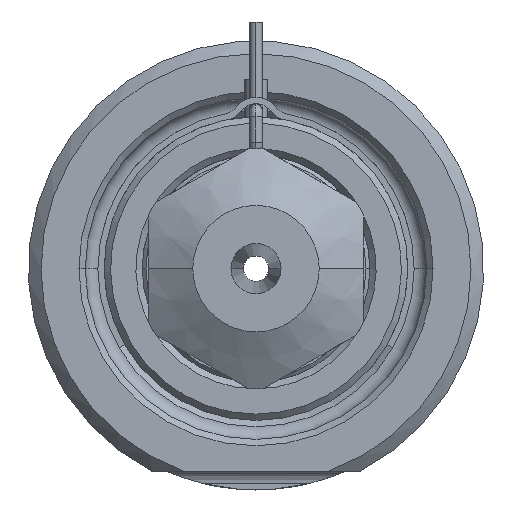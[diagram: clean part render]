
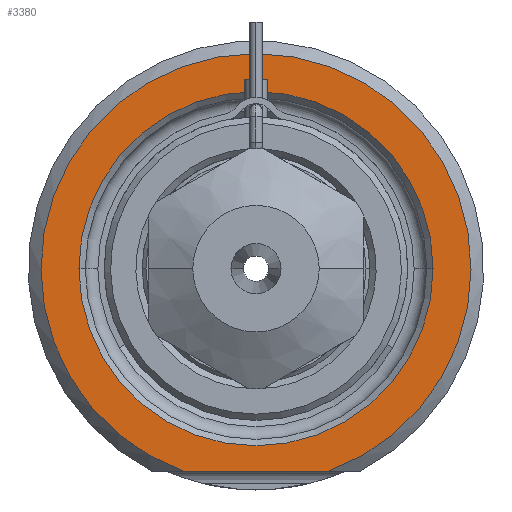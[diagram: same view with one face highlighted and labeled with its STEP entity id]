
A CAD part, front view. The second image highlights one B-rep face of the part: STEP entity #3380.
In plain terms, the highlighted planar face has unit normal (0, -1, 0).
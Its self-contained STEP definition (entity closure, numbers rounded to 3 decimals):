
#682=DIRECTION('',(1.,0.,0.));
#683=VECTOR('',#682,11.489);
#684=CARTESIAN_POINT('',(-5.745,0.,-16.));
#685=LINE('',#684,#683);
#686=CARTESIAN_POINT('',(0.,0.,0.));
#687=DIRECTION('',(0.,1.,0.));
#688=DIRECTION('',(-1.,0.,0.));
#689=AXIS2_PLACEMENT_3D('',#686,#687,#688);
#691=CARTESIAN_POINT('',(0.,0.,0.));
#692=DIRECTION('',(0.,1.,0.));
#693=DIRECTION('',(1.,0.,0.));
#694=AXIS2_PLACEMENT_3D('',#691,#692,#693);
#798=CARTESIAN_POINT('',(0.,0.,0.));
#799=DIRECTION('',(0.,-1.,0.));
#800=DIRECTION('',(0.338,0.,-0.941));
#801=AXIS2_PLACEMENT_3D('',#798,#799,#800);
#2163=CARTESIAN_POINT('',(-14.,0.,0.));
#2164=CARTESIAN_POINT('',(14.,0.,0.));
#2165=VERTEX_POINT('',#2163);
#2166=VERTEX_POINT('',#2164);
#2203=CARTESIAN_POINT('',(-5.745,0.,-16.));
#2204=CARTESIAN_POINT('',(5.745,0.,-16.));
#2205=VERTEX_POINT('',#2203);
#2206=VERTEX_POINT('',#2204);
#3364=CARTESIAN_POINT('',(0.,0.,0.));
#3365=DIRECTION('',(0.,-1.,0.));
#3366=DIRECTION('',(1.,0.,0.));
#3367=AXIS2_PLACEMENT_3D('',#3364,#3365,#3366);
#3368=PLANE('',#3367);
#3370=ORIENTED_EDGE('',*,*,#3369,.F.);
#3372=ORIENTED_EDGE('',*,*,#3371,.F.);
#3373=EDGE_LOOP('',(#3370,#3372));
#3374=FACE_OUTER_BOUND('',#3373,.F.);
#3376=ORIENTED_EDGE('',*,*,#3375,.F.);
#3377=ORIENTED_EDGE('',*,*,#3354,.F.);
#3378=EDGE_LOOP('',(#3376,#3377));
#3379=FACE_BOUND('',#3378,.F.);
#3380=ADVANCED_FACE('',(#3374,#3379),#3368,.T.);
#690=CIRCLE('',#689,14.);
#695=CIRCLE('',#694,14.);
#802=CIRCLE('',#801,17.);
#3354=EDGE_CURVE('',#2166,#2165,#695,.T.);
#3369=EDGE_CURVE('',#2205,#2206,#685,.T.);
#3371=EDGE_CURVE('',#2206,#2205,#802,.T.);
#3375=EDGE_CURVE('',#2165,#2166,#690,.T.);
